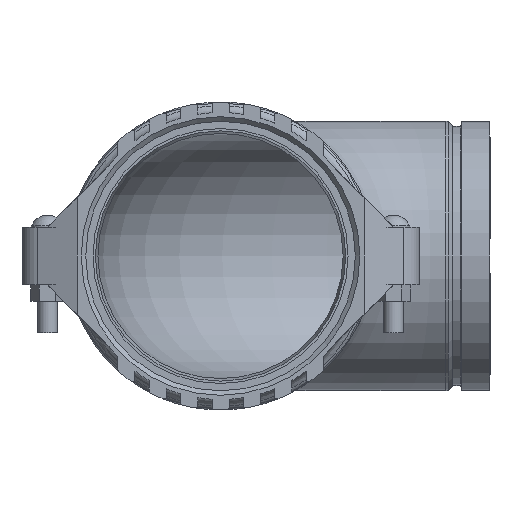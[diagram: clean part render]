
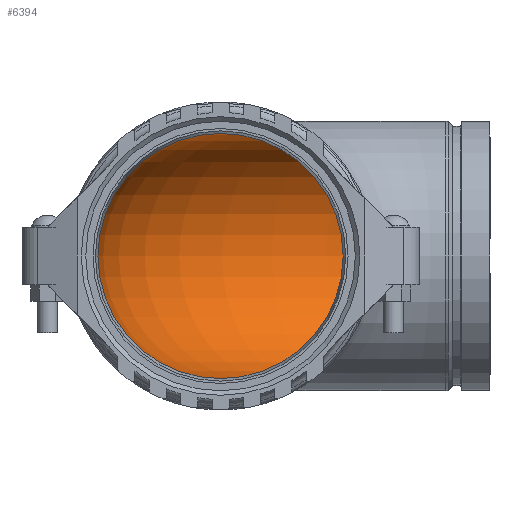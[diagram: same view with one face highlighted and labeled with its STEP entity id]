
A CAD part, left-side view. The second image highlights one B-rep face of the part: STEP entity #6394.
In plain terms, the highlighted toroidal (fillet/blend) face has major radius 297.18 mm and minor radius 161.798 mm.
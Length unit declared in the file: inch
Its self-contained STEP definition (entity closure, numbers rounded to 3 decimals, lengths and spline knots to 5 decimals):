
#284=TOROIDAL_SURFACE('',#7136,11.7,6.37);
#1496=FACE_OUTER_BOUND('',#1833,.T.);
#1833=EDGE_LOOP('',(#5535,#5536,#5537,#5538,#5539));
#2175=CIRCLE('',#7137,6.37);
#2176=CIRCLE('',#7138,5.33);
#2177=CIRCLE('',#7139,6.37);
#2178=CIRCLE('',#7140,6.37);
#2818=VERTEX_POINT('',#12692);
#2819=VERTEX_POINT('',#12694);
#2820=VERTEX_POINT('',#12696);
#3734=EDGE_CURVE('',#2818,#2818,#2175,.T.);
#3735=EDGE_CURVE('',#2818,#2819,#2176,.T.);
#3736=EDGE_CURVE('',#2819,#2820,#2177,.T.);
#3737=EDGE_CURVE('',#2820,#2819,#2178,.T.);
#5535=ORIENTED_EDGE('',*,*,#3734,.F.);
#5536=ORIENTED_EDGE('',*,*,#3735,.T.);
#5537=ORIENTED_EDGE('',*,*,#3736,.T.);
#5538=ORIENTED_EDGE('',*,*,#3737,.T.);
#5539=ORIENTED_EDGE('',*,*,#3735,.F.);
#6394=ADVANCED_FACE('',(#1496),#284,.F.);
#7136=AXIS2_PLACEMENT_3D('',#12691,#8813,#8814);
#7137=AXIS2_PLACEMENT_3D('',#12693,#8815,#8816);
#7138=AXIS2_PLACEMENT_3D('',#12695,#8817,#8818);
#7139=AXIS2_PLACEMENT_3D('',#12697,#8819,#8820);
#7140=AXIS2_PLACEMENT_3D('',#12698,#8821,#8822);
#8813=DIRECTION('center_axis',(0.,0.,-1.));
#8814=DIRECTION('ref_axis',(-1.,0.,0.));
#8815=DIRECTION('center_axis',(0.,1.,0.));
#8816=DIRECTION('ref_axis',(-1.,0.,0.));
#8817=DIRECTION('center_axis',(0.,0.,-1.));
#8818=DIRECTION('ref_axis',(-1.,0.,0.));
#8819=DIRECTION('center_axis',(1.,0.,0.));
#8820=DIRECTION('ref_axis',(0.,1.,0.));
#8821=DIRECTION('center_axis',(1.,0.,0.));
#8822=DIRECTION('ref_axis',(0.,1.,0.));
#12691=CARTESIAN_POINT('Origin',(11.7,-11.7,0.));
#12692=CARTESIAN_POINT('',(6.37,-11.7,0.));
#12693=CARTESIAN_POINT('Origin',(0.,-11.7,0.));
#12694=CARTESIAN_POINT('',(11.7,-6.37,0.));
#12695=CARTESIAN_POINT('Origin',(11.7,-11.7,0.));
#12696=CARTESIAN_POINT('',(11.7,0.,6.37));
#12697=CARTESIAN_POINT('Origin',(11.7,0.,0.));
#12698=CARTESIAN_POINT('Origin',(11.7,0.,0.));
